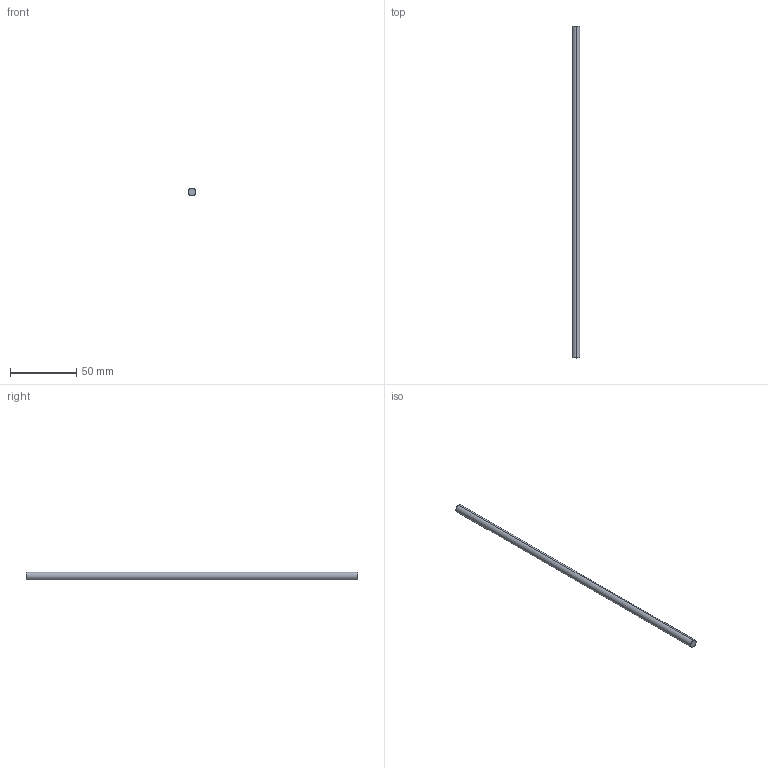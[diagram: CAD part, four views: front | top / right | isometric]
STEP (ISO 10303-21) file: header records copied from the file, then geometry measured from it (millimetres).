
FILE_DESCRIPTION (( 'STEP AP203' ), '1' );
FILE_NAME ('2100-0006-0250.STEP', '2018-02-12T22:18:10', ( '' ), ( '' ), 'SwSTEP 2.0', 'SolidWorks 2016', '' );
FILE_SCHEMA (( 'CONFIG_CONTROL_DESIGN' ));
Length unit declared in the file: millimetre
Products named in the file (1): 2100-0006-0250
Bounding box: 6 x 250 x 6 mm (x, y, z)
Volume: 7068.3 mm3; surface area: 4766.1 mm2
Topology: 1 solids, 1 shells, 8 faces, 14 edges, 8 vertices
Faces by surface type: cone 4, cylinder 2, plane 2
Entity records: 271 total; most frequent: DIRECTION 40, CARTESIAN_POINT 31, ORIENTED_EDGE 28, AXIS2_PLACEMENT_3D 17, EDGE_CURVE 14, EDGE_LOOP 8, CIRCLE 8, VERTEX_POINT 8
